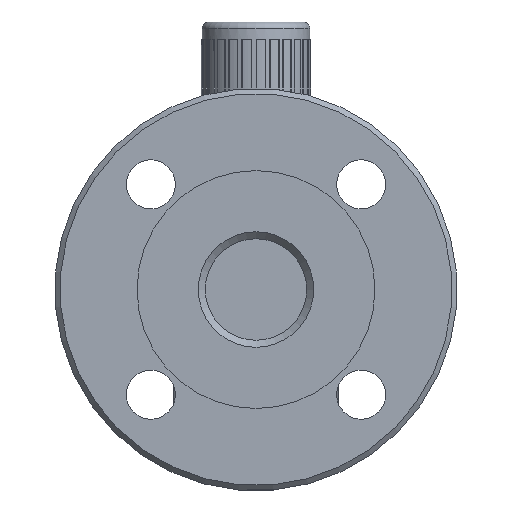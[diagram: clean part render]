
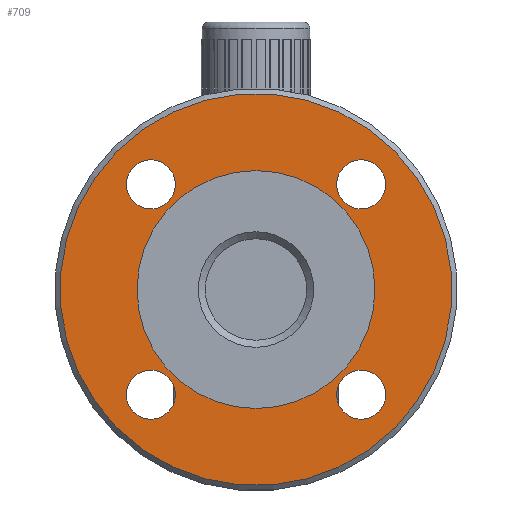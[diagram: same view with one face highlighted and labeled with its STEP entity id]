
A CAD part, left-side view. The second image highlights one B-rep face of the part: STEP entity #709.
In plain terms, the highlighted planar face has unit normal (-1, 0, 0).
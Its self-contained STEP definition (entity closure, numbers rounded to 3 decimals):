
#253=FACE_BOUND('',#1264,.T.);
#254=FACE_BOUND('',#1265,.T.);
#255=FACE_BOUND('',#1266,.T.);
#256=FACE_BOUND('',#1267,.T.);
#257=FACE_BOUND('',#1268,.T.);
#258=FACE_BOUND('',#1269,.T.);
#550=PLANE('',#4520);
#709=ADVANCED_FACE('',(#253,#254,#255,#256,#257,#258),#550,.T.);
#1264=EDGE_LOOP('',(#1988));
#1265=EDGE_LOOP('',(#1989));
#1266=EDGE_LOOP('',(#1990));
#1267=EDGE_LOOP('',(#1991));
#1268=EDGE_LOOP('',(#1992));
#1269=EDGE_LOOP('',(#1993));
#1658=CIRCLE('',#4474,34.);
#1679=CIRCLE('',#4515,56.);
#1680=CIRCLE('',#4516,7.);
#1681=CIRCLE('',#4517,7.);
#1682=CIRCLE('',#4518,7.);
#1683=CIRCLE('',#4519,7.);
#1988=ORIENTED_EDGE('',*,*,#3490,.T.);
#1989=ORIENTED_EDGE('',*,*,#3459,.T.);
#1990=ORIENTED_EDGE('',*,*,#3491,.T.);
#1991=ORIENTED_EDGE('',*,*,#3492,.T.);
#1992=ORIENTED_EDGE('',*,*,#3493,.T.);
#1993=ORIENTED_EDGE('',*,*,#3494,.T.);
#3056=VERTEX_POINT('',#6323);
#3076=VERTEX_POINT('',#6444);
#3077=VERTEX_POINT('',#6446);
#3078=VERTEX_POINT('',#6448);
#3079=VERTEX_POINT('',#6450);
#3080=VERTEX_POINT('',#6452);
#3459=EDGE_CURVE('',#3056,#3056,#1658,.T.);
#3490=EDGE_CURVE('',#3076,#3076,#1679,.T.);
#3491=EDGE_CURVE('',#3077,#3077,#1680,.T.);
#3492=EDGE_CURVE('',#3078,#3078,#1681,.T.);
#3493=EDGE_CURVE('',#3079,#3079,#1682,.T.);
#3494=EDGE_CURVE('',#3080,#3080,#1683,.T.);
#4474=AXIS2_PLACEMENT_3D('',#6322,#5018,#5019);
#4515=AXIS2_PLACEMENT_3D('',#6443,#5104,#5105);
#4516=AXIS2_PLACEMENT_3D('',#6445,#5106,#5107);
#4517=AXIS2_PLACEMENT_3D('',#6447,#5108,#5109);
#4518=AXIS2_PLACEMENT_3D('',#6449,#5110,#5111);
#4519=AXIS2_PLACEMENT_3D('',#6451,#5112,#5113);
#4520=AXIS2_PLACEMENT_3D('',#6453,#5114,#5115);
#5018=DIRECTION('',(1.,0.,0.));
#5019=DIRECTION('',(0.,0.,1.));
#5104=DIRECTION('',(-1.,0.,0.));
#5105=DIRECTION('',(0.,0.707,0.707));
#5106=DIRECTION('',(1.,0.,0.));
#5107=DIRECTION('',(0.,-0.707,0.707));
#5108=DIRECTION('',(1.,0.,0.));
#5109=DIRECTION('',(0.,0.707,0.707));
#5110=DIRECTION('',(1.,0.,0.));
#5111=DIRECTION('',(0.,0.707,-0.707));
#5112=DIRECTION('',(1.,0.,0.));
#5113=DIRECTION('',(0.,-0.707,-0.707));
#5114=DIRECTION('',(-1.,0.,0.));
#5115=DIRECTION('',(0.,0.707,0.707));
#6322=CARTESIAN_POINT('',(22.,0.,100.));
#6323=CARTESIAN_POINT('',(22.,0.,134.));
#6443=CARTESIAN_POINT('',(22.,0.,100.));
#6444=CARTESIAN_POINT('',(22.,39.598,139.598));
#6445=CARTESIAN_POINT('',(22.,30.052,130.052));
#6446=CARTESIAN_POINT('',(22.,25.102,135.002));
#6447=CARTESIAN_POINT('',(22.,30.052,69.948));
#6448=CARTESIAN_POINT('',(22.,35.002,74.898));
#6449=CARTESIAN_POINT('',(22.,-30.052,69.948));
#6450=CARTESIAN_POINT('',(22.,-25.102,64.998));
#6451=CARTESIAN_POINT('',(22.,-30.052,130.052));
#6452=CARTESIAN_POINT('',(22.,-35.002,125.102));
#6453=CARTESIAN_POINT('',(22.,0.,100.));
